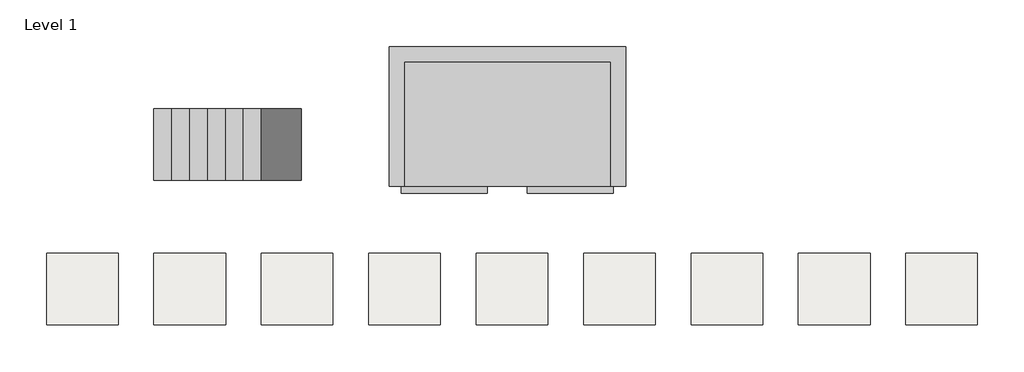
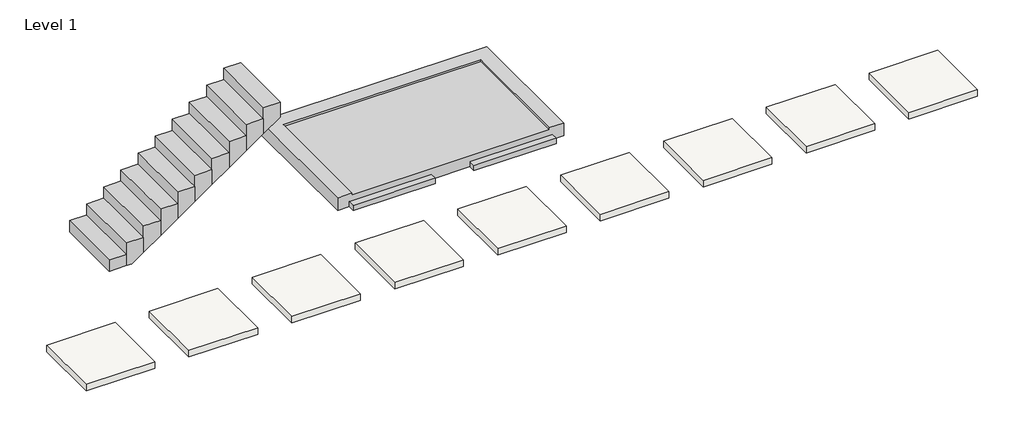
# One storey: 9 slabs, 1 proxy, 1 stair flight.
"""IFC4 building model written with IfcOpenShell, lengths in millimetres."""

from ifc_helpers import new_model, si_unit, frame, origin, place, context, project, spatial, polyline, outline, extrude, faceted_brep, transform, mapped, element, save
from components import proxy_300_24_isr_concrete_platform_double_platform_9cdc8692

model = new_model("IFC4")

# Units and contexts
model_context = context("Model", 3, world=origin())
ifc_project = project(units=[si_unit("LENGTHUNIT", "METRE", prefix="MILLI")], contexts=[model_context])

# Site, building, storey
site = spatial("IfcSite", under=ifc_project)
building = spatial("IfcBuilding", under=site)
storey = spatial("IfcBuildingStorey", under=building, Name="Level 1", Elevation=0.0)

# Proxy
placement = place(None, origin())
proxy_300_24_isr_concrete_platform_double_platform_shape = proxy_300_24_isr_concrete_platform_double_platform_9cdc8692(model_context)
element("IfcBuildingElementProxy", 1, Name="300_24_ISR_concrete_platform : double platform", ObjectType="300_24_ISR_concrete_platform : double platform", at=placement, inside=storey, context=model_context, shape_type="MappedRepresentation", body=[
    mapped(proxy_300_24_isr_concrete_platform_double_platform_shape, transform((-652.5441241, 2827.5413771, 0.0), x_axis=(1.0, 0.0, 0.0), y_axis=(0.0, 1.0, 0.0), z_axis=(0.0, 0.0, 1.0))),
])

# Slabs
element("IfcSlab", 2, ObjectType="Generic 100mm", at=placement, inside=storey, context=model_context, shape_type="SweptSolid", body=[
    extrude(outline(polyline([(-3088.5953778, 89.4387512), (-3088.5953778, -910.5612488), (-4088.5953778, -910.5612488), (-4088.5953778, 89.4387512), (-3088.5953778, 89.4387512)])), frame((0.0, 0.0, -100.0), z_axis=(0.0, 0.0, 1.0), x_axis=(1.0, 0.0, 0.0)), (0.0, 0.0, 1.0), 100.0),
])
element("IfcSlab", 3, ObjectType="Generic 100mm", at=placement, inside=storey, context=model_context, shape_type="SweptSolid", body=[
    extrude(outline(polyline([(-1588.5953778, 89.4387512), (-1588.5953778, -910.5612488), (-2588.5953778, -910.5612488), (-2588.5953778, 89.4387512), (-1588.5953778, 89.4387512)])), frame((0.0, 0.0, -100.0), z_axis=(0.0, 0.0, 1.0), x_axis=(1.0, 0.0, 0.0)), (0.0, 0.0, 1.0), 100.0),
])
element("IfcSlab", 4, ObjectType="Generic 100mm", at=placement, inside=storey, context=model_context, shape_type="SweptSolid", body=[
    extrude(outline(polyline([(-88.5953778, 89.4387512), (-88.5953778, -910.5612488), (-1088.5953778, -910.5612488), (-1088.5953778, 89.4387512), (-88.5953778, 89.4387512)])), frame((0.0, 0.0, -100.0), z_axis=(0.0, 0.0, 1.0), x_axis=(1.0, 0.0, 0.0)), (0.0, 0.0, 1.0), 100.0),
])
element("IfcSlab", 5, ObjectType="Generic 100mm", at=placement, inside=storey, context=model_context, shape_type="SweptSolid", body=[
    extrude(outline(polyline([(1411.4046222, 89.4387512), (1411.4046222, -910.5612488), (411.4046222, -910.5612488), (411.4046222, 89.4387512), (1411.4046222, 89.4387512)])), frame((0.0, 0.0, -100.0), z_axis=(0.0, 0.0, 1.0), x_axis=(1.0, 0.0, 0.0)), (0.0, 0.0, 1.0), 100.0),
])
element("IfcSlab", 6, ObjectType="Generic 100mm", at=placement, inside=storey, context=model_context, shape_type="SweptSolid", body=[
    extrude(outline(polyline([(2911.4046222, 89.4387512), (2911.4046222, -910.5612488), (1911.4046222, -910.5612488), (1911.4046222, 89.4387512), (2911.4046222, 89.4387512)])), frame((0.0, 0.0, -100.0), z_axis=(0.0, 0.0, 1.0), x_axis=(1.0, 0.0, 0.0)), (0.0, 0.0, 1.0), 100.0),
])
element("IfcSlab", 7, ObjectType="Generic 100mm", at=placement, inside=storey, context=model_context, shape_type="SweptSolid", body=[
    extrude(outline(polyline([(4411.4046222, 89.4387512), (4411.4046222, -910.5612488), (3411.4046222, -910.5612488), (3411.4046222, 89.4387512), (4411.4046222, 89.4387512)])), frame((0.0, 0.0, -100.0), z_axis=(0.0, 0.0, 1.0), x_axis=(1.0, 0.0, 0.0)), (0.0, 0.0, 1.0), 100.0),
])
element("IfcSlab", 8, ObjectType="Generic 100mm", at=placement, inside=storey, context=model_context, shape_type="SweptSolid", body=[
    extrude(outline(polyline([(5911.4046222, 89.4387512), (5911.4046222, -910.5612488), (4911.4046222, -910.5612488), (4911.4046222, 89.4387512), (5911.4046222, 89.4387512)])), frame((0.0, 0.0, -100.0), z_axis=(0.0, 0.0, 1.0), x_axis=(1.0, 0.0, 0.0)), (0.0, 0.0, 1.0), 100.0),
])
element("IfcSlab", 9, ObjectType="Generic 100mm", at=placement, inside=storey, context=model_context, shape_type="SweptSolid", body=[
    extrude(outline(polyline([(7411.4046222, 89.4387512), (7411.4046222, -910.5612488), (6411.4046222, -910.5612488), (6411.4046222, 89.4387512), (7411.4046222, 89.4387512)])), frame((0.0, 0.0, -100.0), z_axis=(0.0, 0.0, 1.0), x_axis=(1.0, 0.0, 0.0)), (0.0, 0.0, 1.0), 100.0),
])
element("IfcSlab", 10, ObjectType="Generic 100mm", at=placement, inside=storey, context=model_context, shape_type="SweptSolid", body=[
    extrude(outline(polyline([(-4588.5953778, 89.4387512), (-4588.5953778, -910.5612488), (-5588.5953778, -910.5612488), (-5588.5953778, 89.4387512), (-4588.5953778, 89.4387512)])), frame((0.0, 0.0, -100.0), z_axis=(0.0, 0.0, 1.0), x_axis=(1.0, 0.0, 0.0)), (0.0, 0.0, 1.0), 100.0),
])

# Stair flight
element("IfcStairFlight", 11, ObjectType="190mm Depth", at=placement, inside=storey, context=model_context, shape_type="Brep", body=[
    faceted_brep([(-3838.5953778, 2107.5413771, 173.9130435), (-4088.5953778, 2107.5413771, 173.9130435), (-4088.5953778, 1107.5413771, 173.9130435), (-3838.5953778, 1107.5413771, 173.9130435), (-3838.5953778, 2107.5413771, 0.0), (-4088.5953778, 2107.5413771, 0.0), (-4088.5953778, 1107.5413771, 0.0), (-3838.5953778, 1107.5413771, 0.0), (-3588.5953778, 2107.5413771, 347.826087), (-3838.5953778, 2107.5413771, 347.826087), (-3838.5953778, 1107.5413771, 347.826087), (-3588.5953778, 1107.5413771, 347.826087), (-3588.5953778, 2107.5413771, 116.3742706), (-3755.8833918, 2107.5413771, 0.0), (-3755.8833918, 1107.5413771, 0.0), (-3588.5953778, 1107.5413771, 116.3742706), (-3338.5953778, 2107.5413771, 521.7391304), (-3588.5953778, 2107.5413771, 521.7391304), (-3588.5953778, 1107.5413771, 521.7391304), (-3338.5953778, 1107.5413771, 521.7391304), (-3338.5953778, 2107.5413771, 290.2873141), (-3338.5953778, 1107.5413771, 290.2873141), (-3088.5953778, 2107.5413771, 695.6521739), (-3338.5953778, 2107.5413771, 695.6521739), (-3338.5953778, 1107.5413771, 695.6521739), (-3088.5953778, 1107.5413771, 695.6521739), (-3088.5953778, 2107.5413771, 464.2003576), (-3088.5953778, 1107.5413771, 464.2003576), (-2838.5953778, 2107.5413771, 869.5652174), (-3088.5953778, 2107.5413771, 869.5652174), (-3088.5953778, 1107.5413771, 869.5652174), (-2838.5953778, 1107.5413771, 869.5652174), (-2838.5953778, 2107.5413771, 638.113401), (-2838.5953778, 1107.5413771, 638.113401), (-2588.5953778, 2107.5413771, 1043.4782609), (-2838.5953778, 2107.5413771, 1043.4782609), (-2838.5953778, 1107.5413771, 1043.4782609), (-2588.5953778, 1107.5413771, 1043.4782609), (-2588.5953778, 2107.5413771, 812.0264445), (-2588.5953778, 1107.5413771, 812.0264445), (-2338.5953778, 2107.5413771, 1217.3913043), (-2588.5953778, 2107.5413771, 1217.3913043), (-2588.5953778, 1107.5413771, 1217.3913043), (-2338.5953778, 1107.5413771, 1217.3913043), (-2338.5953778, 2107.5413771, 985.939488), (-2338.5953778, 1107.5413771, 985.939488), (-2088.5953778, 2107.5413771, 1391.3043478), (-2338.5953778, 2107.5413771, 1391.3043478), (-2338.5953778, 1107.5413771, 1391.3043478), (-2088.5953778, 1107.5413771, 1391.3043478), (-2088.5953778, 2107.5413771, 1159.8525315), (-2088.5953778, 1107.5413771, 1159.8525315), (-1838.5953778, 2107.5413771, 1565.2173913), (-2088.5953778, 2107.5413771, 1565.2173913), (-2088.5953778, 1107.5413771, 1565.2173913), (-1838.5953778, 1107.5413771, 1565.2173913), (-1838.5953778, 2107.5413771, 1333.765575), (-1838.5953778, 1107.5413771, 1333.765575), (-1588.5953778, 2107.5413771, 1739.1304348), (-1838.5953778, 2107.5413771, 1739.1304348), (-1838.5953778, 1107.5413771, 1739.1304348), (-1588.5953778, 1107.5413771, 1739.1304348), (-1588.5953778, 2107.5413771, 1507.6786184), (-1588.5953778, 1107.5413771, 1507.6786184)], [[[0, 1, 2, 3]], [[1, 0, 4, 5]], [[2, 1, 5, 6]], [[3, 2, 6, 7]], [[8, 9, 10, 11]], [[4, 0, 9, 8, 12, 13]], [[0, 3, 10, 9]], [[3, 7, 14, 15, 11, 10]], [[16, 17, 18, 19]], [[17, 16, 20, 12, 8]], [[8, 11, 18, 17]], [[19, 18, 11, 15, 21]], [[22, 23, 24, 25]], [[23, 22, 26, 20, 16]], [[16, 19, 24, 23]], [[25, 24, 19, 21, 27]], [[28, 29, 30, 31]], [[29, 28, 32, 26, 22]], [[22, 25, 30, 29]], [[31, 30, 25, 27, 33]], [[34, 35, 36, 37]], [[35, 34, 38, 32, 28]], [[28, 31, 36, 35]], [[37, 36, 31, 33, 39]], [[40, 41, 42, 43]], [[41, 40, 44, 38, 34]], [[34, 37, 42, 41]], [[43, 42, 37, 39, 45]], [[46, 47, 48, 49]], [[47, 46, 50, 44, 40]], [[40, 43, 48, 47]], [[49, 48, 43, 45, 51]], [[52, 53, 54, 55]], [[53, 52, 56, 50, 46]], [[46, 49, 54, 53]], [[55, 54, 49, 51, 57]], [[58, 59, 60, 61]], [[59, 58, 62, 56, 52]], [[52, 55, 60, 59]], [[61, 60, 55, 57, 63]], [[58, 61, 63, 62]], [[5, 4, 13, 14, 7, 6]], [[14, 13, 12, 20, 26, 32, 38, 44, 50, 56, 62, 63, 57, 51, 45, 39, 33, 27, 21, 15]]]),
])

save(model, "model.ifc")
